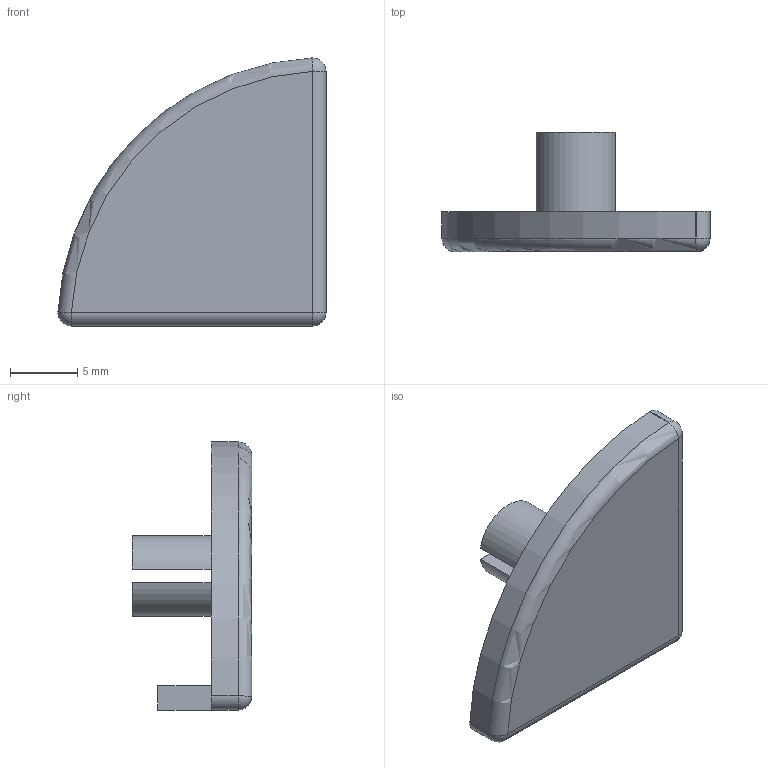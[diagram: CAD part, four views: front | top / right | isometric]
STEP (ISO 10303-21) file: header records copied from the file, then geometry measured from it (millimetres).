
FILE_DESCRIPTION (( 'STEP AP203' ), '1' );
FILE_NAME ('EC20X20CR.STEP', '2018-03-15T12:37:26', ( '' ), ( '' ), 'SwSTEP 2.0', 'SolidWorks 2013', '' );
FILE_SCHEMA (( 'CONFIG_CONTROL_DESIGN' ));
Length unit declared in the file: millimetre
Products named in the file (1): EC20X20CR
Bounding box: 19.97 x 8.9 x 19.97 mm (x, y, z)
Volume: 856.8 mm3; surface area: 1121.2 mm2
Topology: 1 solids, 1 shells, 34 faces, 84 edges, 51 vertices
Faces by surface type: plane 16, cylinder 14, sphere 3, torus 1
Entity records: 1061 total; most frequent: DIRECTION 182, CARTESIAN_POINT 167, ORIENTED_EDGE 162, EDGE_CURVE 81, AXIS2_PLACEMENT_3D 66, VERTEX_POINT 51, LINE 50, VECTOR 50
